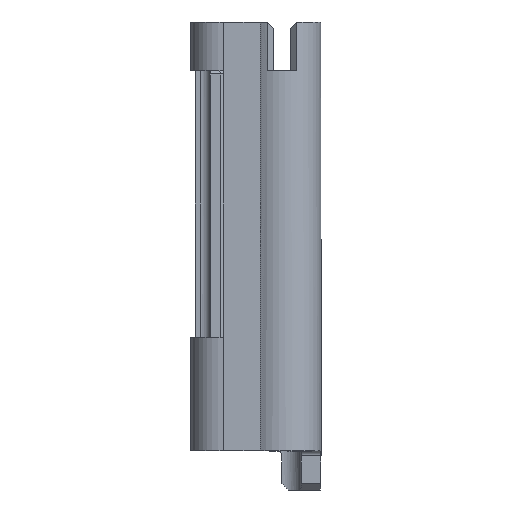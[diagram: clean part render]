
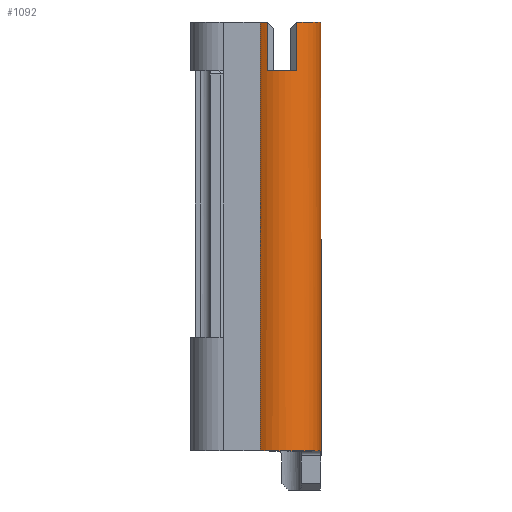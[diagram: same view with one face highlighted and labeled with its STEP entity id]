
A CAD part, front view. The second image highlights one B-rep face of the part: STEP entity #1092.
In plain terms, the highlighted cylindrical face has radius 1.2 mm (diameter 2.4 mm), a partial arc.
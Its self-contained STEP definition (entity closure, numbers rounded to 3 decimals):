
#10 = CARTESIAN_POINT ( 'NONE',  ( 0., 0., -11.7 ) ) ;
#37 = CARTESIAN_POINT ( 'NONE',  ( -0.466, -1.106, 1.496 ) ) ;
#78 = DIRECTION ( 'NONE',  ( 1., 0., 0. ) ) ;
#235 = ORIENTED_EDGE ( 'NONE', *, *, #706, .F. ) ;
#245 = ORIENTED_EDGE ( 'NONE', *, *, #846, .T. ) ;
#299 = CARTESIAN_POINT ( 'NONE',  ( -0.459, -1.109, 1.489 ) ) ;
#360 = EDGE_CURVE ( 'NONE', #1299, #2566, #2877, .T. ) ;
#380 = CARTESIAN_POINT ( 'NONE',  ( 0.463, -1.107, 1.493 ) ) ;
#400 = CARTESIAN_POINT ( 'NONE',  ( 0., 0., -11.7 ) ) ;
#409 = VERTEX_POINT ( 'NONE', #1558 ) ;
#417 = CARTESIAN_POINT ( 'NONE',  ( 1.2, 0., -11.85 ) ) ;
#439 = CARTESIAN_POINT ( 'NONE',  ( 1.2, 0., 1.5 ) ) ;
#469 = ORIENTED_EDGE ( 'NONE', *, *, #1036, .T. ) ;
#527 = AXIS2_PLACEMENT_3D ( 'NONE', #1774, #2917, #2084 ) ;
#552 = DIRECTION ( 'NONE',  ( 1., 0., 0. ) ) ;
#615 = CARTESIAN_POINT ( 'NONE',  ( 0.459, -1.109, 0. ) ) ;
#649 = AXIS2_PLACEMENT_3D ( 'NONE', #10, #2219, #552 ) ;
#660 = CARTESIAN_POINT ( 'NONE',  ( 1.194, -0.116, -11.703 ) ) ;
#680 = DIRECTION ( 'NONE',  ( 0., 0., 1. ) ) ;
#706 = EDGE_CURVE ( 'NONE', #2722, #2566, #2164, .T. ) ;
#713 = VERTEX_POINT ( 'NONE', #3356 ) ;
#796 = CARTESIAN_POINT ( 'NONE',  ( -0.459, -1.109, 0. ) ) ;
#846 = EDGE_CURVE ( 'NONE', #2722, #1524, #1362, .T. ) ;
#879 = AXIS2_PLACEMENT_3D ( 'NONE', #2257, #3375, #78 ) ;
#901 = DIRECTION ( 'NONE',  ( 0., 0., 1. ) ) ;
#905 = EDGE_CURVE ( 'NONE', #1887, #409, #1430, .T. ) ;
#914 = CARTESIAN_POINT ( 'NONE',  ( 1.197, -0.085, -11.714 ) ) ;
#925 = CARTESIAN_POINT ( 'NONE',  ( -0.47, -1.104, 1.5 ) ) ;
#951 = ORIENTED_EDGE ( 'NONE', *, *, #905, .F. ) ;
#1014 = ORIENTED_EDGE ( 'NONE', *, *, #1264, .T. ) ;
#1036 = EDGE_CURVE ( 'NONE', #3116, #2367, #2666, .T. ) ;
#1092 = ADVANCED_FACE ( 'NONE', ( #1514 ), #2076, .T. ) ;
#1122 = CIRCLE ( 'NONE', #527, 1.2 ) ;
#1184 = ORIENTED_EDGE ( 'NONE', *, *, #1327, .T. ) ;
#1209 = CIRCLE ( 'NONE', #3206, 1.2 ) ;
#1219 = DIRECTION ( 'NONE',  ( 0., 0., 1. ) ) ;
#1245 = EDGE_CURVE ( 'NONE', #2921, #1524, #3146, .T. ) ;
#1264 = EDGE_CURVE ( 'NONE', #1887, #713, #1209, .T. ) ;
#1299 = VERTEX_POINT ( 'NONE', #417 ) ;
#1327 = EDGE_CURVE ( 'NONE', #2921, #1880, #1122, .T. ) ;
#1328 = VECTOR ( 'NONE', #3524, 1000. ) ;
#1362 =( BOUNDED_CURVE ( )  B_SPLINE_CURVE ( 3, ( #3160, #1478, #380, #2605 ),
 .UNSPECIFIED., .F., .F. ) 
 B_SPLINE_CURVE_WITH_KNOTS ( ( 4, 4 ),
 ( 1.168, 1.178 ),
 .UNSPECIFIED. ) 
 CURVE ( )  GEOMETRIC_REPRESENTATION_ITEM ( )  RATIONAL_B_SPLINE_CURVE ( ( 1., 1., 1., 1. ) ) 
 REPRESENTATION_ITEM ( '' )  );
#1375 = ORIENTED_EDGE ( 'NONE', *, *, #1245, .F. ) ;
#1421 = VECTOR ( 'NONE', #3526, 1000. ) ;
#1426 = VECTOR ( 'NONE', #680, 1000. ) ;
#1430 = LINE ( 'NONE', #2699, #1328 ) ;
#1440 = CARTESIAN_POINT ( 'NONE',  ( 1.2, -0.008, -11.8 ) ) ;
#1449 = CARTESIAN_POINT ( 'NONE',  ( 1.2, -0.014, -11.784 ) ) ;
#1459 = CARTESIAN_POINT ( 'NONE',  ( 1.2, -0.032, -11.756 ) ) ;
#1478 = CARTESIAN_POINT ( 'NONE',  ( 0.466, -1.106, 1.496 ) ) ;
#1514 = FACE_OUTER_BOUND ( 'NONE', #1695, .T. ) ;
#1524 = VERTEX_POINT ( 'NONE', #1923 ) ;
#1558 = CARTESIAN_POINT ( 'NONE',  ( -0.663, -1., 1.5 ) ) ;
#1695 = EDGE_LOOP ( 'NONE', ( #2268, #3363, #235, #245, #1375, #1184, #3012, #469, #2966, #951, #1014 ) ) ;
#1726 = CARTESIAN_POINT ( 'NONE',  ( 1.2, -0.023, -11.77 ) ) ;
#1769 = EDGE_CURVE ( 'NONE', #409, #2367, #2342, .T. ) ;
#1774 = CARTESIAN_POINT ( 'NONE',  ( 0., 0., 0. ) ) ;
#1880 = VERTEX_POINT ( 'NONE', #3187 ) ;
#1887 = VERTEX_POINT ( 'NONE', #2627 ) ;
#1923 = CARTESIAN_POINT ( 'NONE',  ( 0.459, -1.109, 1.489 ) ) ;
#1982 = CARTESIAN_POINT ( 'NONE',  ( -0.459, -1.109, 1.489 ) ) ;
#1983 = CARTESIAN_POINT ( 'NONE',  ( 1.2, -0.001, -11.827 ) ) ;
#2076 = CYLINDRICAL_SURFACE ( 'NONE', #649, 1.2 ) ;
#2084 = DIRECTION ( 'NONE',  ( 1., 0., 0. ) ) ;
#2164 = CIRCLE ( 'NONE', #879, 1.2 ) ;
#2219 = DIRECTION ( 'NONE',  ( 0., 0., 1. ) ) ;
#2257 = CARTESIAN_POINT ( 'NONE',  ( 0., 0., 1.5 ) ) ;
#2268 = ORIENTED_EDGE ( 'NONE', *, *, #2295, .T. ) ;
#2295 = EDGE_CURVE ( 'NONE', #713, #1299, #2801, .T. ) ;
#2306 = DIRECTION ( 'NONE',  ( 1., 0., 0. ) ) ;
#2316 = CARTESIAN_POINT ( 'NONE',  ( 1.199, -0.057, -11.733 ) ) ;
#2342 = CIRCLE ( 'NONE', #2430, 1.2 ) ;
#2367 = VERTEX_POINT ( 'NONE', #925 ) ;
#2430 = AXIS2_PLACEMENT_3D ( 'NONE', #2834, #901, #2306 ) ;
#2442 = CARTESIAN_POINT ( 'NONE',  ( 0.47, -1.104, 1.5 ) ) ;
#2554 = CARTESIAN_POINT ( 'NONE',  ( 1.199, -0.044, -11.743 ) ) ;
#2566 = VERTEX_POINT ( 'NONE', #439 ) ;
#2605 = CARTESIAN_POINT ( 'NONE',  ( 0.459, -1.109, 1.489 ) ) ;
#2627 = CARTESIAN_POINT ( 'NONE',  ( -0.663, -1., -11.7 ) ) ;
#2666 =( BOUNDED_CURVE ( )  B_SPLINE_CURVE ( 3, ( #299, #3330, #37, #3086 ),
 .UNSPECIFIED., .F., .F. ) 
 B_SPLINE_CURVE_WITH_KNOTS ( ( 4, 4 ),
 ( 5.105, 5.115 ),
 .UNSPECIFIED. ) 
 CURVE ( )  GEOMETRIC_REPRESENTATION_ITEM ( )  RATIONAL_B_SPLINE_CURVE ( ( 1., 1., 1., 1. ) ) 
 REPRESENTATION_ITEM ( '' )  );
#2699 = CARTESIAN_POINT ( 'NONE',  ( -0.663, -1., -11.7 ) ) ;
#2722 = VERTEX_POINT ( 'NONE', #2442 ) ;
#2737 = EDGE_CURVE ( 'NONE', #1880, #3116, #2944, .T. ) ;
#2801 = B_SPLINE_CURVE_WITH_KNOTS ( 'NONE', 3,
 ( #2879, #3147, #660, #2866, #914, #3132, #2316, #2554, #1459, #1726, #1449, #1440, #3122, #1983, #3415, #3406 ),
 .UNSPECIFIED., .F., .F.,
 ( 4, 3, 3, 3, 3, 4 ),
 ( 0., 0., 0., 0., 0., 0. ),
 .UNSPECIFIED. ) ;
#2834 = CARTESIAN_POINT ( 'NONE',  ( 0., 0., 1.5 ) ) ;
#2866 = CARTESIAN_POINT ( 'NONE',  ( 1.196, -0.101, -11.708 ) ) ;
#2873 = CARTESIAN_POINT ( 'NONE',  ( 0.459, -1.109, 0. ) ) ;
#2877 = LINE ( 'NONE', #2919, #3054 ) ;
#2879 = CARTESIAN_POINT ( 'NONE',  ( 1.191, -0.15, -11.7 ) ) ;
#2917 = DIRECTION ( 'NONE',  ( 0., 0., -1. ) ) ;
#2919 = CARTESIAN_POINT ( 'NONE',  ( 1.2, 0., -11.7 ) ) ;
#2921 = VERTEX_POINT ( 'NONE', #615 ) ;
#2936 = DIRECTION ( 'NONE',  ( 0., 0., 1. ) ) ;
#2944 = LINE ( 'NONE', #796, #1421 ) ;
#2966 = ORIENTED_EDGE ( 'NONE', *, *, #1769, .F. ) ;
#3012 = ORIENTED_EDGE ( 'NONE', *, *, #2737, .T. ) ;
#3054 = VECTOR ( 'NONE', #2936, 1000. ) ;
#3086 = CARTESIAN_POINT ( 'NONE',  ( -0.47, -1.104, 1.5 ) ) ;
#3116 = VERTEX_POINT ( 'NONE', #1982 ) ;
#3122 = CARTESIAN_POINT ( 'NONE',  ( 1.2, -0.004, -11.816 ) ) ;
#3132 = CARTESIAN_POINT ( 'NONE',  ( 1.198, -0.07, -11.722 ) ) ;
#3146 = LINE ( 'NONE', #2873, #1426 ) ;
#3147 = CARTESIAN_POINT ( 'NONE',  ( 1.193, -0.133, -11.7 ) ) ;
#3160 = CARTESIAN_POINT ( 'NONE',  ( 0.47, -1.104, 1.5 ) ) ;
#3181 = DIRECTION ( 'NONE',  ( 1., 0., 0. ) ) ;
#3187 = CARTESIAN_POINT ( 'NONE',  ( -0.459, -1.109, 0. ) ) ;
#3206 = AXIS2_PLACEMENT_3D ( 'NONE', #400, #1219, #3181 ) ;
#3330 = CARTESIAN_POINT ( 'NONE',  ( -0.463, -1.107, 1.493 ) ) ;
#3356 = CARTESIAN_POINT ( 'NONE',  ( 1.191, -0.15, -11.7 ) ) ;
#3363 = ORIENTED_EDGE ( 'NONE', *, *, #360, .T. ) ;
#3375 = DIRECTION ( 'NONE',  ( 0., 0., 1. ) ) ;
#3406 = CARTESIAN_POINT ( 'NONE',  ( 1.2, 0., -11.85 ) ) ;
#3415 = CARTESIAN_POINT ( 'NONE',  ( 1.2, 0., -11.839 ) ) ;
#3524 = DIRECTION ( 'NONE',  ( 0., 0., 1. ) ) ;
#3526 = DIRECTION ( 'NONE',  ( 0., 0., 1. ) ) ;
